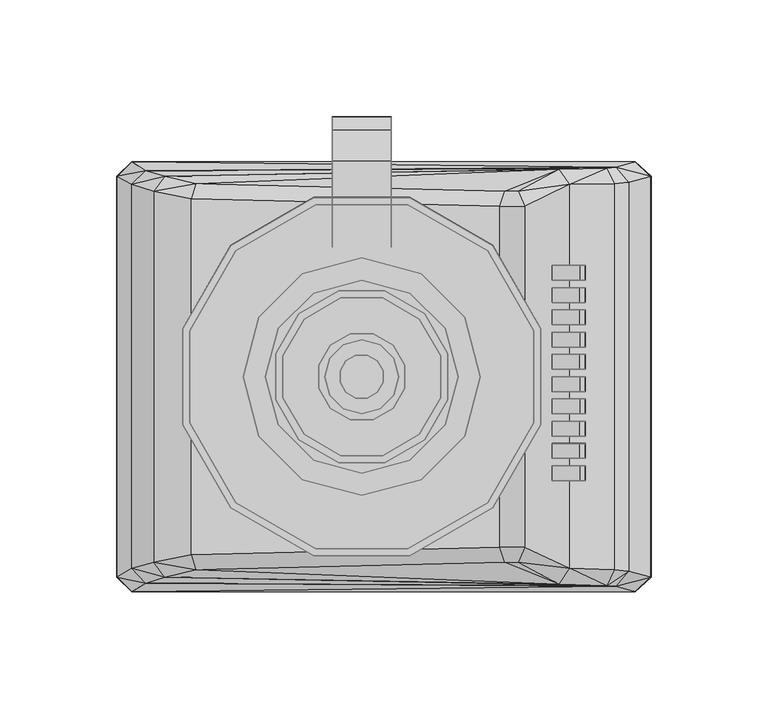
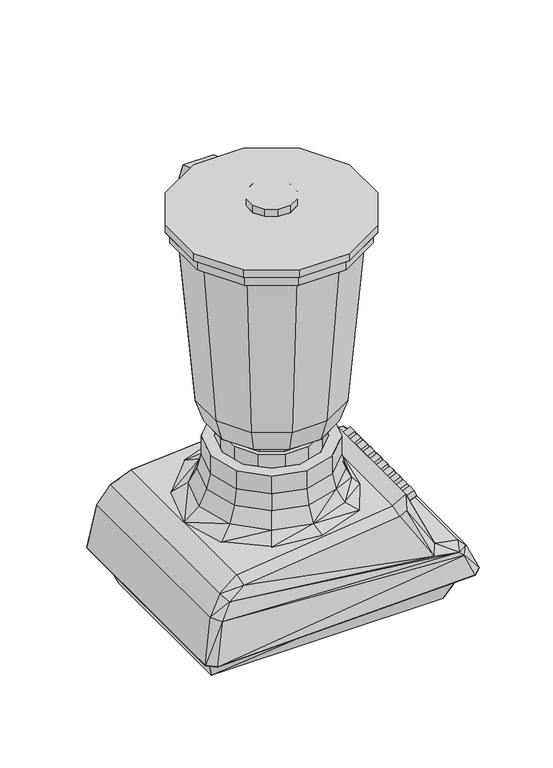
"""IFC4 building model written with IfcOpenShell, lengths in millimetres: proxy geometry, Blender_167 : Blender_167."""

from ifc_helpers import new_model, si_unit, origin, place, context, project, spatial, triangles, source, transform, mapped, element, save


def specialty_equipment_4209ac2b(model_context):
    return source(origin(), model_context, "Body", "Tessellation", [
        triangles([(113.8142466, 58.3400391, 149.225003), (114.6359987, 55.273225, 149.225003), (131.7157702, 65.1342329, 149.225003), (129.4707037, 67.3792948, 149.225003), (114.6359987, 55.273225, 117.474997), (131.7157702, 65.1342329, 117.474997), (112.1707604, 64.4736673, 117.474997), (124.9805708, 71.8694277, 117.474997), (141.576778, 82.2139952, 149.225003), (138.5099594, 83.0357474, 149.225003), (141.576778, 82.2139952, 117.474997), (132.3763312, 84.6792517, 117.474997), (141.576778, 101.9360018, 149.225003), (138.5099594, 101.1142587, 149.225003), (141.576778, 101.9360018, 117.474997), (132.3763312, 99.4707544, 117.474997), (131.7157702, 119.0157732, 149.225003), (129.4707037, 116.7707067, 149.225003), (131.7157702, 119.0157732, 117.474997), (124.9805708, 112.2805738, 117.474997), (114.6359987, 128.876772, 149.225003), (113.8142466, 125.8099533, 149.225003), (114.6359987, 128.876772, 117.474997), (112.1707604, 119.6763343, 117.474997), (94.9139922, 128.876772, 149.225003), (95.7357443, 125.8099533, 149.225003), (94.9139922, 128.876772, 117.474997), (97.3792487, 119.6763343, 117.474997), (77.8342298, 119.0157732, 149.225003), (80.0792963, 116.7707067, 149.225003), (77.8342298, 119.0157732, 117.474997), (84.5694292, 112.2805738, 117.474997), (67.9732265, 101.9360018, 149.225003), (71.0400361, 101.1142587, 149.225003), (67.9732265, 101.9360018, 117.474997), (77.1736688, 99.4707544, 117.474997), (67.9732265, 82.2139952, 149.225003), (71.0400361, 83.0357474, 149.225003), (67.9732265, 82.2139952, 117.474997), (77.1736688, 84.6792517, 117.474997), (77.8342298, 65.1342329, 149.225003), (80.0792963, 67.3792948, 149.225003), (77.8342298, 65.1342329, 117.474997), (84.5694292, 71.8694277, 117.474997), (94.9139922, 55.273225, 149.225003), (95.7357443, 58.3400391, 149.225003), (94.9139922, 55.273225, 117.474997), (97.3792487, 64.4736673, 117.474997)], [[1, 2, 3], [3, 4, 1], [2, 5, 6], [6, 3, 2], [5, 7, 8], [8, 6, 5], [4, 3, 9], [9, 10, 4], [3, 6, 11], [11, 9, 3], [6, 8, 12], [12, 11, 6], [10, 9, 13], [13, 14, 10], [9, 11, 15], [15, 13, 9], [11, 12, 16], [16, 15, 11], [14, 13, 17], [17, 18, 14], [13, 15, 19], [19, 17, 13], [15, 16, 20], [20, 19, 15], [18, 17, 21], [21, 22, 18], [17, 19, 23], [23, 21, 17], [19, 20, 24], [24, 23, 19], [22, 21, 25], [25, 26, 22], [21, 23, 27], [27, 25, 21], [23, 24, 28], [28, 27, 23], [26, 25, 29], [29, 30, 26], [25, 27, 31], [31, 29, 25], [27, 28, 32], [32, 31, 27], [30, 29, 33], [33, 34, 30], [29, 31, 35], [35, 33, 29], [31, 32, 36], [36, 35, 31], [34, 33, 37], [37, 38, 34], [33, 35, 39], [39, 37, 33], [35, 36, 40], [40, 39, 35], [38, 37, 41], [41, 42, 38], [37, 39, 43], [43, 41, 37], [39, 40, 44], [44, 43, 39], [42, 41, 45], [45, 46, 42], [41, 43, 47], [47, 45, 41], [43, 44, 48], [48, 47, 43], [46, 45, 2], [2, 1, 46], [45, 47, 5], [5, 2, 45], [47, 48, 7], [7, 5, 47]], closed=False),
        triangles([(188.8209782, 114.3, 75.2032358), (188.8209782, 120.650003, 75.2032358), (200.4941392, 114.3, 80.2060055), (200.4941392, 120.650003, 80.2060055), (188.8209782, 57.15, 75.2032403), (188.8209782, 63.4999985, 75.2032358), (200.4941392, 57.15, 80.2060146), (200.4941392, 63.4999985, 80.2060055), (188.8209782, 47.625, 75.2032403), (188.8209782, 53.9749985, 75.2032403), (200.4941392, 47.625, 80.2060146), (200.4941392, 53.9749985, 80.2060146), (188.8209782, 95.25, 75.2032358), (188.8209782, 101.600003, 75.2032358), (200.4941392, 95.25, 80.2060055), (200.4941392, 101.600003, 80.2060055), (188.8209782, 85.725, 75.2032358), (188.8209782, 92.075003, 75.2032358), (200.4941392, 85.725, 80.2060055), (200.4941392, 92.075003, 80.2060055), (188.8209782, 66.675, 75.2032358), (188.8209782, 73.0249985, 75.2032358), (200.4941392, 66.675, 80.2060055), (200.4941392, 73.0249985, 80.2060055), (188.8209782, 76.2, 75.2032358), (188.8209782, 82.550003, 75.2032358), (200.4941392, 76.2, 80.2060055), (200.4941392, 82.550003, 80.2060055), (188.8209782, 104.775, 75.2032358), (188.8209782, 111.125003, 75.2032358), (200.4941392, 104.775, 80.2060055), (200.4941392, 111.125003, 80.2060055), (188.8209782, 123.825, 75.2032358), (188.8209782, 130.175003, 75.2032267), (200.4941392, 123.825, 80.2060055), (200.4941392, 130.175003, 80.2059964), (188.8209782, 133.35, 75.2032267), (188.8209782, 139.700003, 75.2032267), (200.4941392, 133.35, 80.2059964), (200.4941392, 139.700003, 80.2059964), (197.9927294, 120.650003, 86.0425769), (197.9927294, 114.3, 86.0425769), (186.3196047, 114.3, 81.0398027), (186.3196047, 120.650003, 81.0398027), (186.3196047, 63.4999985, 81.0398027), (197.9927294, 63.4999985, 86.0425769), (197.9927294, 57.15, 86.042586), (186.3196047, 57.15, 81.0398118), (197.9927294, 47.625, 86.042586), (197.9927294, 53.9749985, 86.042586), (186.3196047, 47.625, 81.0398118), (186.3196047, 53.9749985, 81.0398118), (186.3196047, 101.600003, 81.0398027), (197.9927294, 101.600003, 86.0425769), (197.9927294, 95.25, 86.0425769), (186.3196047, 95.25, 81.0398027), (197.9927294, 85.725, 86.0425769), (197.9927294, 92.075003, 86.0425769), (186.3196047, 85.725, 81.0398027), (186.3196047, 92.075003, 81.0398027), (186.3196047, 73.0249985, 81.0398027), (197.9927294, 73.0249985, 86.0425769), (197.9927294, 66.675, 86.0425769), (186.3196047, 66.675, 81.0398027), (197.9927294, 76.2, 86.0425769), (197.9927294, 82.550003, 86.0425769), (186.3196047, 76.2, 81.0398027), (186.3196047, 82.550003, 81.0398027), (197.9927294, 104.775, 86.0425769), (197.9927294, 111.125003, 86.0425769), (186.3196047, 104.775, 81.0398027), (186.3196047, 111.125003, 81.0398027), (186.3196047, 130.175003, 81.0397936), (197.9927294, 130.175003, 86.0425769), (197.9927294, 123.825, 86.0425769), (186.3196047, 123.825, 81.0398027), (197.9927294, 133.35, 86.0425769), (197.9927294, 139.700003, 86.0425769), (186.3196047, 133.35, 81.0397936), (186.3196047, 139.700003, 81.0397936)], [[1, 2, 3], [4, 3, 2], [5, 6, 7], [8, 7, 6], [9, 10, 11], [12, 11, 10], [13, 14, 15], [16, 15, 14], [17, 18, 19], [20, 19, 18], [21, 22, 23], [24, 23, 22], [25, 26, 27], [28, 27, 26], [29, 30, 31], [32, 31, 30], [33, 34, 35], [36, 35, 34], [37, 38, 39], [40, 39, 38], [3, 4, 41], [41, 42, 3], [42, 41, 43], [44, 43, 41], [45, 46, 6], [8, 6, 46], [47, 48, 5], [5, 7, 47], [7, 8, 46], [46, 47, 7], [47, 46, 48], [45, 48, 46], [49, 50, 51], [52, 51, 50], [11, 12, 50], [50, 49, 11], [49, 51, 9], [9, 11, 49], [52, 50, 10], [12, 10, 50], [53, 54, 14], [16, 14, 54], [55, 56, 13], [13, 15, 55], [15, 16, 54], [54, 55, 15], [55, 54, 56], [53, 56, 54], [57, 58, 59], [60, 59, 58], [19, 20, 58], [58, 57, 19], [57, 59, 17], [17, 19, 57], [60, 58, 18], [20, 18, 58], [61, 62, 22], [24, 22, 62], [63, 64, 21], [21, 23, 63], [23, 24, 62], [62, 63, 23], [63, 62, 64], [61, 64, 62], [65, 66, 67], [68, 67, 66], [27, 28, 66], [66, 65, 27], [65, 67, 25], [25, 27, 65], [68, 66, 26], [28, 26, 66], [42, 43, 1], [1, 3, 42], [69, 70, 71], [72, 71, 70], [31, 32, 70], [70, 69, 31], [69, 71, 29], [29, 31, 69], [72, 70, 30], [32, 30, 70], [44, 41, 2], [4, 2, 41], [73, 74, 34], [36, 34, 74], [75, 76, 33], [33, 35, 75], [35, 36, 74], [74, 75, 35], [75, 74, 76], [73, 76, 74], [77, 78, 79], [80, 79, 78], [39, 40, 78], [78, 77, 39], [77, 79, 37], [37, 39, 77], [80, 78, 38], [40, 38, 78]], closed=False),
        triangles([(124.4970157, 18.4714572, 333.375), (124.4970157, 18.471464, 323.85), (158.6565403, 38.1934718, 323.8500363), (158.6565403, 38.1934808, 333.3750363), (122.8535113, 24.6050956, 323.85), (154.1664074, 42.6836001, 323.85), (178.378556, 72.353001, 323.85), (178.378556, 72.3529964, 333.375), (172.2449188, 73.9965008, 323.85), (178.378556, 111.7970278, 323.85), (178.378556, 111.7970278, 333.375), (172.2449188, 110.1535234, 323.8500363), (158.6565403, 145.9565434, 323.85), (158.6565403, 145.9565434, 333.375), (154.1664074, 141.4664286, 323.85), (124.4970157, 165.6785681, 323.85), (124.4970157, 165.6785681, 333.375), (122.8535113, 159.5449309, 323.85), (85.0529934, 165.6785681, 323.85), (85.0529934, 165.6785681, 333.375), (85.0529934, 18.4714572, 333.375), (85.0529934, 18.471464, 323.85), (86.6964887, 24.6050956, 323.85), (86.6964887, 159.5449309, 323.85), (92.075003, 159.6047201, 323.85), (117.474997, 159.6047201, 323.85), (117.474997, 184.1500061, 323.85), (92.075003, 184.1500061, 323.85), (50.8934642, 145.9565434, 333.375), (50.8934642, 145.9565434, 323.85), (31.1714508, 111.7970278, 323.85), (31.1714508, 111.7970278, 333.375), (55.3835926, 141.4664286, 323.85), (37.3050812, 110.1535234, 323.8500363), (31.1714508, 72.353001, 323.85), (31.1714508, 72.3529964, 333.375), (37.3050812, 73.9965008, 323.85), (50.8934642, 38.1934718, 323.8500363), (50.8934642, 38.1934808, 333.3750363), (55.3835926, 42.6836001, 323.85), (92.075003, 197.5639402, 319.2480643), (117.474997, 197.5639402, 319.2480643), (117.474997, 187.3249939, 307.9749879), (92.075003, 187.3249939, 307.9749879), (117.474997, 189.1098051, 302.3741488), (92.075003, 189.1098051, 302.3741488), (117.474997, 158.6052172, 311.1500121), (92.075003, 158.6052172, 311.1500121), (117.474997, 180.9750182, 311.1500121), (92.075003, 180.9750182, 311.1500121), (117.474997, 158.7499939, 190.5000182), (92.075003, 158.7499939, 190.5000182), (92.075003, 148.2202406, 190.5000182), (117.474997, 148.2202406, 190.5000182), (117.474997, 165.1000061, 194.3884799), (92.075003, 165.1000061, 194.3884799), (119.5665027, 36.8723315, 180.9750182), (117.9230074, 43.0059687, 161.9250182), (140.6960269, 56.1539716, 161.9250182), (145.1861507, 51.6638387, 180.9750182), (113.8142466, 58.3400391, 155.5750061), (129.4707037, 67.3792948, 155.5750061), (153.8440434, 78.9269865, 161.9250182), (159.9776625, 77.2834913, 180.9750182), (138.5099594, 83.0357474, 155.5750061), (153.8440434, 105.2230014, 161.9250182), (159.9776625, 106.8665057, 180.9750182), (138.5099594, 101.1142587, 155.5750061), (140.6960269, 127.9960118, 161.9250182), (145.1861507, 132.4861447, 180.9750182), (129.4707037, 116.7706977, 155.5750061), (117.9230074, 141.1440283, 161.9250182), (119.5665027, 147.2776655, 180.9750182), (113.8142466, 125.8099442, 155.5750061), (91.6269926, 141.1440283, 161.9250182), (89.9834882, 147.2776655, 180.9750182), (95.7357443, 125.8099442, 155.5750061), (80.0792963, 116.7706977, 155.5750061), (68.8539731, 127.9960118, 161.9250182), (68.8539731, 56.1539716, 161.9250182), (80.0792963, 67.3792948, 155.5750061), (95.7357443, 58.3400391, 155.5750061), (91.6269926, 43.0059687, 161.9250182), (89.9834882, 36.8723315, 180.9750182), (92.075003, 165.7762366, 181.3317551), (117.474997, 165.7762366, 181.3317551), (92.075003, 147.3714552, 180.9750182), (117.474997, 147.3714552, 180.9750182), (49.5723375, 106.8665057, 180.9750182), (55.7059702, 105.2230014, 161.9250182), (55.7059702, 78.9269865, 161.9250182), (49.5723375, 77.2834913, 180.9750182), (64.3638447, 132.4861447, 180.9750182), (71.0400361, 101.1142587, 155.5750061), (71.0400361, 83.0357474, 155.5750061), (64.3638447, 51.6638387, 180.9750182), (113.8142466, 58.3400391, 149.2250121), (129.4707037, 67.3792948, 149.2250121), (138.5099594, 83.0357474, 149.2250121), (138.5099594, 101.1142587, 149.2250121), (129.4707037, 116.7706977, 149.2250121), (113.8142466, 125.8099442, 149.2250121), (95.7357443, 125.8099442, 149.2250121), (80.0792963, 116.7706977, 149.2250121), (71.0400361, 101.1142587, 149.2250121), (71.0400361, 83.0357474, 149.2250121), (80.0792963, 67.3792948, 149.2250121), (95.7357443, 58.3400391, 149.2250121), (92.075003, 177.4430208, 188.3595602), (117.474997, 177.4430208, 188.3595602), (117.474997, 203.2000061, 304.8), (92.075003, 203.2000061, 304.8)], [[1, 2, 3], [3, 4, 1], [2, 5, 6], [6, 3, 2], [4, 3, 7], [7, 8, 4], [3, 6, 9], [9, 7, 3], [8, 7, 10], [10, 11, 8], [7, 9, 12], [12, 10, 7], [11, 10, 13], [13, 14, 11], [10, 12, 15], [15, 13, 10], [14, 13, 16], [16, 17, 14], [13, 15, 18], [18, 16, 13], [17, 16, 19], [19, 20, 17], [21, 22, 2], [2, 1, 21], [22, 23, 5], [5, 2, 22], [16, 18, 24], [24, 19, 16], [25, 26, 27], [27, 28, 25], [29, 30, 31], [31, 32, 29], [30, 33, 34], [34, 31, 30], [32, 31, 35], [35, 36, 32], [31, 34, 37], [37, 35, 31], [36, 35, 38], [38, 39, 36], [35, 37, 40], [40, 38, 35], [20, 19, 30], [30, 29, 20], [19, 24, 33], [33, 30, 19], [39, 38, 22], [22, 21, 39], [38, 40, 23], [23, 22, 38], [28, 27, 41], [42, 41, 27], [43, 44, 45], [46, 45, 44], [47, 48, 49], [50, 49, 48], [51, 52, 53], [53, 54, 51], [55, 56, 51], [52, 51, 56], [57, 58, 59], [59, 60, 57], [58, 61, 62], [62, 59, 58], [60, 59, 63], [63, 64, 60], [59, 62, 65], [65, 63, 59], [64, 63, 66], [66, 67, 64], [63, 65, 68], [68, 66, 63], [67, 66, 69], [69, 70, 67], [66, 68, 71], [71, 69, 66], [70, 69, 72], [72, 73, 70], [69, 71, 74], [74, 72, 69], [73, 72, 75], [75, 76, 73], [72, 74, 77], [77, 75, 72], [75, 77, 78], [78, 79, 75], [80, 81, 82], [82, 83, 80], [84, 83, 58], [58, 57, 84], [83, 82, 61], [61, 58, 83], [85, 86, 87], [88, 87, 86], [89, 90, 91], [91, 92, 89], [76, 75, 79], [79, 93, 76], [93, 79, 90], [90, 89, 93], [79, 78, 94], [94, 90, 79], [90, 94, 95], [95, 91, 90], [92, 91, 80], [80, 96, 92], [91, 95, 81], [81, 80, 91], [96, 80, 83], [83, 84, 96], [61, 97, 98], [98, 62, 61], [62, 98, 99], [99, 65, 62], [65, 99, 100], [100, 68, 65], [68, 100, 101], [101, 71, 68], [71, 101, 102], [102, 74, 71], [74, 102, 103], [103, 77, 74], [77, 103, 104], [104, 78, 77], [78, 104, 105], [105, 94, 78], [94, 105, 106], [106, 95, 94], [95, 106, 107], [107, 81, 95], [81, 107, 108], [108, 82, 81], [82, 108, 97], [97, 61, 82], [52, 85, 87], [87, 53, 52], [86, 51, 88], [54, 88, 51], [109, 110, 86], [86, 85, 109], [110, 55, 51], [51, 86, 110], [56, 109, 52], [85, 52, 109], [49, 50, 44], [44, 43, 49], [45, 46, 56], [56, 55, 45], [111, 45, 110], [55, 110, 45], [46, 112, 109], [109, 56, 46], [112, 111, 109], [110, 109, 111], [5, 57, 60], [60, 6, 5], [6, 60, 64], [64, 9, 6], [9, 64, 67], [67, 12, 9], [12, 67, 70], [70, 15, 12], [15, 70, 73], [73, 18, 15], [24, 76, 93], [93, 33, 24], [33, 93, 89], [89, 34, 33], [34, 89, 92], [92, 37, 34], [37, 92, 96], [96, 40, 37], [40, 96, 84], [84, 23, 40], [23, 84, 57], [57, 5, 23], [18, 73, 76], [76, 24, 18], [48, 25, 50], [28, 50, 25], [26, 47, 49], [49, 27, 26], [27, 49, 42], [43, 42, 49], [50, 28, 41], [41, 44, 50], [42, 43, 45], [45, 111, 42], [44, 41, 46], [112, 46, 41], [41, 42, 111], [111, 112, 41]], closed=False),
        triangles([(109.7055039, 73.6741367, 352.425), (104.775, 92.0750212, 352.425), (99.8444961, 73.6741367, 352.425), (109.7055039, 73.6741231, 346.0749879), (99.8444961, 73.6741231, 346.0749879), (91.3046104, 78.6046407, 352.425), (91.3046104, 78.6046225, 346.0749879), (86.3741155, 87.1445173, 352.425), (86.3741155, 87.1445082, 346.0749879), (86.3741155, 97.005516, 352.425), (86.3741155, 97.005516, 346.0749879), (91.3046104, 105.5454017, 352.425), (91.3046104, 105.5454017, 346.0749879), (99.8444961, 110.4758966, 352.425), (99.8444961, 110.4758966, 346.0749879), (109.7055039, 110.4758966, 352.425), (109.7055039, 110.4758966, 346.0749879), (118.2453896, 105.5454017, 352.425), (118.2453896, 105.5454017, 346.0749879), (123.1758845, 97.005516, 352.425), (123.1758845, 97.005516, 346.0749879), (123.1758845, 87.1445173, 352.425), (123.1758845, 87.1445082, 346.0749879), (118.2453896, 78.6046407, 352.425), (118.2453896, 78.6046225, 346.0749879), (107.2402565, 82.8745653, 339.7250121), (107.2402565, 82.8745653, 342.9), (102.3097435, 82.8745653, 339.7250121), (102.3097435, 82.8745653, 342.9), (125.3187587, 15.4046511, 339.7250121), (84.2312413, 15.4046511, 339.7250121), (125.3187587, 15.4046511, 333.375), (84.2312413, 15.4046511, 333.375), (123.6752635, 21.5382815, 333.375), (85.8747365, 21.5382815, 333.375), (98.0398097, 85.3398218, 339.7250121), (98.0398097, 85.3398218, 342.9), (95.5745532, 89.6097647, 339.7250121), (95.5745532, 89.6097647, 342.9), (95.5745532, 94.5402595, 339.7250121), (95.5745532, 94.5402595, 342.9), (98.0398097, 98.8102024, 339.7250121), (98.0398097, 98.8102024, 342.9), (102.3097435, 101.2754589, 339.7250121), (102.3097435, 101.2754589, 342.9), (107.2402565, 101.2754589, 339.7250121), (107.2402565, 101.2754589, 342.9), (84.2312413, 168.7453686, 339.7250121), (125.3187587, 168.7453686, 339.7250121), (84.2312413, 168.7453686, 333.375), (125.3187587, 168.7453686, 333.375), (85.8747365, 162.6117495, 333.375), (123.6752635, 162.6117495, 333.375), (111.5101903, 98.8102024, 339.7250121), (111.5101903, 98.8102024, 342.9), (160.9016068, 148.2016098, 339.7250121), (160.9016068, 148.2016098, 333.375), (156.4114739, 143.7114769, 333.375), (113.9754468, 94.5402595, 339.7250121), (113.9754468, 94.5402595, 342.9), (181.4453565, 112.6187709, 339.7250121), (181.4453565, 112.6187709, 333.375), (175.3117374, 110.9752756, 333.375), (113.9754468, 89.6097647, 339.7250121), (113.9754468, 89.6097647, 342.9), (181.4453565, 71.5312488, 339.7250121), (181.4453565, 71.5312579, 333.375), (175.3117374, 73.1747532, 333.375), (111.5101903, 85.3398218, 339.7250121), (111.5101903, 85.3398218, 342.9), (160.9016068, 35.9484212, 339.7250121), (160.9016068, 35.9484212, 333.375), (156.4114739, 40.4385473, 333.375), (48.6483977, 35.9484212, 333.375), (48.6483977, 35.9484212, 339.7250121), (28.1046367, 71.5312579, 333.375), (28.1046367, 71.5312488, 339.7250121), (53.1385261, 40.4385473, 333.375), (34.2382694, 73.1747532, 333.375), (28.1046367, 112.6187709, 333.375), (28.1046367, 112.6187709, 339.7250121), (34.2382694, 110.9752756, 333.375), (48.6483977, 148.2016098, 333.375), (48.6483977, 148.2016098, 339.7250121), (53.1385261, 143.7114769, 333.375), (209.6738115, 181.2538711, 54.3959348), (189.2061655, 180.7757934, 57.8072092), (193.6750061, 174.3693349, 63.4999939), (212.7250061, 174.6249879, 60.3249924), (212.7250061, 9.524996, 60.3250061), (193.6750061, 10.049038, 63.5000076), (219.075, 8.9319539, 53.9750076), (219.075, 175.2226077, 53.9749939), (189.2061655, 3.1749896, 57.8072228), (209.6738115, 2.6897781, 54.3959484), (104.775, 92.0749939, 126.999997), (88.899997, 92.0749939, 126.999997), (91.0268475, 84.137497, 126.999997), (96.837503, 78.3268415, 126.999997), (104.775, 76.2, 126.999997), (84.137497, 56.3297966, 139.700003), (79.374997, 48.0809088, 139.700003), (104.775, 41.2750015, 139.700003), (104.775, 50.8000015, 139.700003), (79.374997, 48.0809042, 123.825), (104.775, 41.2749924, 123.825), (112.712497, 78.3268415, 126.999997), (130.175003, 48.0809088, 139.700003), (125.412503, 56.3297966, 139.700003), (130.175003, 48.0809042, 123.825), (118.5231525, 84.137497, 126.999997), (148.7690897, 66.6749955, 139.700003), (140.5202019, 71.4374955, 139.700003), (148.7690897, 66.6749955, 123.825), (120.650003, 92.0749939, 126.999997), (155.5750061, 92.0749939, 139.700003), (146.049997, 92.0749939, 139.700003), (155.5750061, 92.0749939, 123.8249909), (118.5231525, 100.0124909, 126.999997), (148.7690897, 117.474997, 139.700003), (140.5202019, 112.712497, 139.700003), (148.7690897, 117.474997, 123.825), (112.712497, 105.8231555, 126.999997), (130.175003, 136.0690928, 139.700003), (125.412503, 127.8202049, 139.700003), (130.175003, 136.0690928, 123.825), (104.775, 107.949997, 126.999997), (104.775, 142.875, 139.700003), (104.775, 133.35, 139.700003), (104.775, 142.875, 123.825), (96.837503, 105.8231555, 126.999997), (79.374997, 136.0690928, 139.700003), (84.137497, 127.8202049, 139.700003), (79.374997, 136.0690928, 123.825), (91.0268475, 100.0124909, 126.999997), (53.9749985, 92.0749939, 139.700003), (53.9749985, 92.0749939, 123.8249909), (60.7809057, 66.6749955, 123.825), (60.7809057, 66.6749955, 139.700003), (60.7809057, 117.474997, 139.700003), (60.7809057, 117.474997, 123.825), (63.4999985, 92.0749939, 139.700003), (69.0298027, 71.4374955, 139.700003), (69.0298027, 112.712497, 139.700003), (174.6250061, 165.1000061, 107.9499788), (171.6355083, 171.4499818, 98.8054062), (163.8855453, 165.0999879, 101.5999849), (165.9004478, 171.4499818, 95.4143886), (171.6355083, 12.6999936, 98.8054152), (174.6250061, 19.0499943, 107.9500151), (163.8855453, 19.05, 101.6000121), (165.9004478, 12.6999936, 95.4143977), (91.0268475, 84.137497, 114.3), (69.0298027, 71.4374955, 114.3), (84.137497, 56.3298057, 114.3), (96.837503, 78.3268415, 114.3), (104.775, 50.799997, 114.3), (104.775, 76.1999955, 114.3), (77.787503, 45.3312765, 111.125003), (74.6125015, 39.8320164, 98.4250061), (104.775, 31.7499992, 98.424997), (104.775, 38.0999932, 111.125003), (68.2624985, 28.8334985, 92.4905936), (104.775, 19.0499921, 95.9607669), (125.412503, 56.3298057, 114.3), (112.712497, 78.3268415, 114.3), (135.6242525, 39.8320164, 101.6980439), (131.762497, 45.3312765, 111.125003), (141.287497, 28.8334985, 99.4637871), (140.5202019, 71.4374955, 114.3), (118.5231525, 84.137497, 114.3), (154.3690659, 61.9124955, 103.9906275), (151.518722, 65.0875015, 111.125003), (157.3227918, 55.5624924, 101.2538396), (146.049997, 92.0749939, 114.2999909), (120.650003, 92.0749939, 114.2999909), (161.1756998, 92.0749939, 104.9710909), (158.7499939, 92.0749939, 111.1249849), (163.7706359, 92.0749939, 101.7440531), (140.5202019, 112.712497, 114.3), (118.5231525, 100.0124909, 114.2999909), (154.3690659, 122.2374879, 103.9906275), (151.518722, 119.0625, 111.125003), (157.3227918, 128.5874909, 101.2538214), (125.412503, 127.8202049, 114.3), (112.712497, 105.8231555, 114.3), (135.6242525, 144.3179715, 101.6980439), (131.762497, 138.818716, 111.125003), (141.287497, 155.3164826, 99.463778), (104.775, 133.35, 114.3), (104.775, 107.949997, 114.3), (104.775, 152.3999909, 98.4249879), (104.775, 146.049997, 111.125003), (104.775, 165.0999879, 95.9607579), (84.137497, 127.8202049, 114.3), (96.837503, 105.8231555, 114.3), (74.6125015, 144.3179715, 98.4249879), (77.787503, 138.818716, 111.125003), (68.2624985, 155.3164826, 92.4905845), (69.0298027, 112.712497, 114.3), (91.0268475, 100.0124909, 114.2999909), (50.8000015, 92.0749939, 111.1249849), (44.4499985, 92.0749939, 98.424997), (52.5320179, 61.9124955, 98.424997), (58.0312825, 65.0875015, 111.125003), (31.7499992, 92.0749939, 88.899997), (41.5334977, 55.5624924, 89.9214099), (58.0312825, 119.0625, 111.125003), (52.5320179, 122.2374879, 98.424997), (41.5334977, 128.5874909, 89.9213917), (31.7499992, 168.2749939, 88.8999879), (31.7499992, 15.8749928, 88.899997), (88.899997, 92.0749939, 114.2999909), (63.4999985, 92.0749939, 114.2999909), (20.5033156, 177.7999939, 74.746673), (12.4153884, 180.1715243, 61.2667954), (6.3500002, 174.3693349, 63.4999939), (15.8749996, 171.4499818, 79.3749879), (15.8749996, 12.6999913, 79.374997), (6.3500002, 10.049038, 63.5000076), (33.7862621, 174.6249879, 82.7164445), (33.7862621, 9.5249915, 82.7164536), (20.5033156, 6.3499911, 74.7466776), (12.4153884, 3.7141163, 61.266809), (221.3810547, 12.6999868, 31.5494846), (209.55, 25.3999849, 5.8e-06), (209.55, 158.7499939, -5.8e-06), (221.3810547, 171.4499818, 31.5494732), (221.7726733, -1.26e-05, 31.5603647), (221.7726733, 184.1499879, 31.5603465), (228.6, 177.7999939, 31.7499947), (228.6, 6.3499877, 31.7500061), (15.8749996, 158.7499939, -5.8e-06), (15.8749996, 25.3999849, 5.8e-06), (6.2845365, 12.6999936, 25.5745836), (6.2845365, 171.4499818, 25.5745722), (0.0, 6.3499866, 25.4000053), (0.0, 177.7999939, 25.3999917), (6.4675314, 184.1499879, 25.5796432), (6.4675314, -1.32e-05, 25.5796614), (213.7201488, 181.6124429, 50.3495839), (213.7201488, 2.4202145, 50.349602)], [[1, 2, 3], [4, 1, 5], [3, 5, 1], [3, 2, 6], [5, 3, 7], [6, 7, 3], [6, 2, 8], [7, 6, 9], [8, 9, 6], [8, 2, 10], [9, 8, 11], [10, 11, 8], [10, 2, 12], [11, 10, 13], [12, 13, 10], [12, 2, 14], [13, 12, 15], [14, 15, 12], [14, 2, 16], [15, 14, 17], [16, 17, 14], [16, 2, 18], [17, 16, 19], [18, 19, 16], [18, 2, 20], [19, 18, 21], [20, 21, 18], [20, 2, 22], [21, 20, 23], [22, 23, 20], [22, 2, 24], [23, 22, 25], [24, 25, 22], [24, 2, 1], [25, 24, 4], [1, 4, 24], [26, 27, 28], [29, 28, 27], [30, 26, 31], [28, 31, 26], [32, 30, 33], [31, 33, 30], [34, 32, 35], [33, 35, 32], [28, 29, 36], [37, 36, 29], [36, 37, 38], [39, 38, 37], [38, 39, 40], [41, 40, 39], [40, 41, 42], [43, 42, 41], [42, 43, 44], [45, 44, 43], [44, 45, 46], [47, 46, 45], [48, 44, 49], [46, 49, 44], [50, 48, 51], [49, 51, 48], [52, 50, 53], [51, 53, 50], [46, 47, 54], [55, 54, 47], [49, 46, 56], [54, 56, 46], [51, 49, 57], [56, 57, 49], [53, 51, 58], [57, 58, 51], [54, 55, 59], [60, 59, 55], [56, 54, 61], [59, 61, 54], [57, 56, 62], [61, 62, 56], [58, 57, 63], [62, 63, 57], [59, 60, 64], [65, 64, 60], [61, 59, 66], [64, 66, 59], [62, 61, 67], [66, 67, 61], [63, 62, 68], [67, 68, 62], [64, 65, 69], [70, 69, 65], [66, 64, 71], [69, 71, 64], [67, 66, 72], [71, 72, 66], [68, 67, 73], [72, 73, 67], [69, 70, 26], [27, 26, 70], [71, 69, 30], [26, 30, 69], [72, 71, 32], [30, 32, 71], [73, 72, 34], [32, 34, 72], [74, 75, 76], [77, 76, 75], [78, 74, 79], [76, 79, 74], [76, 77, 80], [81, 80, 77], [79, 76, 82], [80, 82, 76], [80, 81, 83], [84, 83, 81], [82, 80, 85], [83, 85, 80], [31, 28, 75], [36, 75, 28], [33, 31, 74], [75, 74, 31], [35, 33, 78], [74, 78, 33], [75, 36, 77], [38, 77, 36], [77, 38, 81], [40, 81, 38], [81, 40, 84], [42, 84, 40], [84, 42, 48], [44, 48, 42], [83, 84, 50], [48, 50, 84], [85, 83, 52], [50, 52, 83], [27, 4, 29], [5, 29, 4], [29, 5, 37], [7, 37, 5], [37, 7, 39], [9, 39, 7], [39, 9, 41], [11, 41, 9], [41, 11, 43], [13, 43, 11], [43, 13, 45], [15, 45, 13], [45, 15, 47], [17, 47, 15], [47, 17, 55], [19, 55, 17], [55, 19, 60], [21, 60, 19], [60, 21, 65], [23, 65, 21], [65, 23, 70], [25, 70, 23], [70, 25, 27], [4, 27, 25], [86, 87, 88], [86, 88, 89], [90, 89, 91], [88, 91, 89], [92, 93, 89], [89, 90, 92], [94, 95, 91], [91, 95, 90], [96, 97, 98], [96, 98, 99], [96, 99, 100], [101, 102, 103], [103, 104, 101], [102, 105, 106], [106, 103, 102], [96, 100, 107], [104, 103, 108], [108, 109, 104], [103, 106, 110], [110, 108, 103], [96, 107, 111], [109, 108, 112], [112, 113, 109], [108, 110, 114], [114, 112, 108], [96, 111, 115], [113, 112, 116], [116, 117, 113], [112, 114, 118], [118, 116, 112], [96, 115, 119], [117, 116, 120], [120, 121, 117], [116, 118, 122], [122, 120, 116], [96, 119, 123], [121, 120, 124], [124, 125, 121], [120, 122, 126], [126, 124, 120], [96, 123, 127], [125, 124, 128], [128, 129, 125], [124, 126, 130], [130, 128, 124], [96, 127, 131], [129, 128, 132], [132, 133, 129], [128, 130, 134], [134, 132, 128], [96, 131, 135], [96, 135, 97], [136, 137, 138], [138, 139, 136], [140, 141, 137], [137, 136, 140], [142, 136, 139], [139, 143, 142], [143, 139, 102], [102, 101, 143], [139, 138, 105], [105, 102, 139], [133, 132, 140], [140, 144, 133], [132, 134, 141], [141, 140, 132], [144, 140, 136], [136, 142, 144], [145, 146, 147], [148, 147, 146], [149, 150, 151], [151, 152, 149], [150, 145, 151], [147, 151, 145], [153, 154, 155], [155, 156, 153], [156, 155, 157], [157, 158, 156], [159, 160, 161], [161, 162, 159], [163, 164, 161], [163, 161, 160], [158, 157, 165], [165, 166, 158], [161, 167, 168], [161, 168, 162], [161, 164, 169], [161, 169, 167], [166, 165, 170], [170, 171, 166], [168, 167, 172], [168, 172, 173], [167, 169, 174], [167, 174, 172], [171, 170, 175], [175, 176, 171], [173, 172, 177], [173, 177, 178], [172, 174, 179], [172, 179, 177], [176, 175, 180], [180, 181, 176], [177, 182, 183], [177, 183, 178], [179, 184, 182], [179, 182, 177], [181, 180, 185], [185, 186, 181], [182, 187, 188], [182, 188, 183], [184, 189, 187], [184, 187, 182], [186, 185, 190], [190, 191, 186], [188, 187, 192], [188, 192, 193], [189, 194, 192], [189, 192, 187], [191, 190, 195], [195, 196, 191], [193, 192, 197], [197, 198, 193], [192, 194, 199], [192, 199, 197], [196, 195, 200], [200, 201, 196], [202, 203, 204], [204, 205, 202], [206, 207, 204], [206, 204, 203], [208, 209, 203], [203, 202, 208], [209, 210, 206], [209, 206, 203], [151, 147, 211], [211, 212, 151], [213, 214, 154], [154, 153, 213], [205, 204, 160], [160, 159, 205], [207, 163, 160], [207, 160, 204], [198, 197, 209], [209, 208, 198], [197, 199, 210], [197, 210, 209], [201, 200, 214], [214, 213, 201], [215, 216, 217], [215, 217, 218], [219, 218, 217], [217, 220, 219], [211, 221, 218], [218, 221, 215], [222, 212, 219], [222, 219, 223], [212, 211, 219], [218, 219, 211], [152, 151, 222], [212, 222, 151], [147, 148, 221], [221, 211, 147], [224, 223, 220], [220, 223, 219], [97, 213, 153], [153, 98, 97], [214, 142, 143], [143, 154, 214], [137, 202, 205], [205, 138, 137], [98, 153, 156], [156, 99, 98], [154, 143, 101], [101, 155, 154], [138, 205, 159], [159, 105, 138], [99, 156, 158], [158, 100, 99], [155, 101, 104], [104, 157, 155], [105, 159, 162], [162, 106, 105], [100, 158, 166], [166, 107, 100], [157, 104, 109], [109, 165, 157], [106, 162, 168], [168, 110, 106], [107, 166, 171], [171, 111, 107], [165, 109, 113], [113, 170, 165], [110, 168, 173], [173, 114, 110], [111, 171, 176], [176, 115, 111], [170, 113, 117], [117, 175, 170], [114, 173, 178], [178, 118, 114], [115, 176, 181], [181, 119, 115], [175, 117, 121], [121, 180, 175], [118, 178, 183], [183, 122, 118], [119, 181, 186], [186, 123, 119], [180, 121, 125], [125, 185, 180], [122, 183, 188], [188, 126, 122], [123, 186, 191], [191, 127, 123], [185, 125, 129], [129, 190, 185], [126, 188, 193], [193, 130, 126], [127, 191, 196], [196, 131, 127], [190, 129, 133], [133, 195, 190], [130, 193, 198], [198, 134, 130], [131, 196, 201], [201, 135, 131], [195, 133, 144], [144, 200, 195], [134, 198, 208], [208, 141, 134], [135, 201, 213], [213, 97, 135], [200, 144, 142], [142, 214, 200], [141, 208, 202], [202, 137, 141], [91, 88, 145], [145, 150, 91], [91, 150, 149], [91, 149, 94], [145, 88, 146], [146, 88, 87], [221, 87, 215], [215, 87, 86], [87, 221, 148], [87, 148, 146], [94, 222, 223], [94, 223, 95], [222, 94, 152], [152, 94, 149], [225, 226, 227], [227, 228, 225], [229, 230, 231], [231, 232, 229], [233, 234, 235], [235, 236, 233], [237, 238, 239], [239, 240, 237], [240, 239, 229], [230, 229, 239], [225, 235, 234], [225, 234, 226], [236, 228, 233], [233, 228, 227], [231, 230, 241], [231, 241, 93], [89, 93, 86], [86, 93, 241], [229, 232, 242], [242, 232, 92], [92, 90, 95], [92, 95, 242], [232, 231, 92], [93, 92, 231], [217, 216, 238], [238, 216, 239], [224, 220, 237], [224, 237, 240], [220, 217, 237], [238, 237, 217], [216, 241, 239], [239, 241, 230], [242, 224, 240], [242, 240, 229], [86, 241, 216], [86, 216, 215], [242, 95, 224], [224, 95, 223]], closed=False),
    ])


if __name__ == "__main__":
    model = new_model("IFC4")
    model_context = context("Model", 3, world=origin())
    ifc_project = project(units=[si_unit("LENGTHUNIT", "METRE", prefix="MILLI")], contexts=[model_context])
    site = spatial("IfcSite", under=ifc_project)
    building = spatial("IfcBuilding", under=site)
    placement = place(None, origin())
    specialty_equipment_shape = specialty_equipment_4209ac2b(model_context)
    element("IfcBuildingElementProxy", 1, Name="Blender_167 : Blender_167", ObjectType="Blender_167 : Blender_167", at=placement, inside=building, context=model_context, shape_type="MappedRepresentation", body=[
        mapped(specialty_equipment_shape, transform((0.0, 0.0, 0.0), x_axis=(1.0, 0.0, 0.0), y_axis=(0.0, 1.0, 0.0), z_axis=(0.0, 0.0, 1.0))),
    ])
    save(model, "model.ifc")
